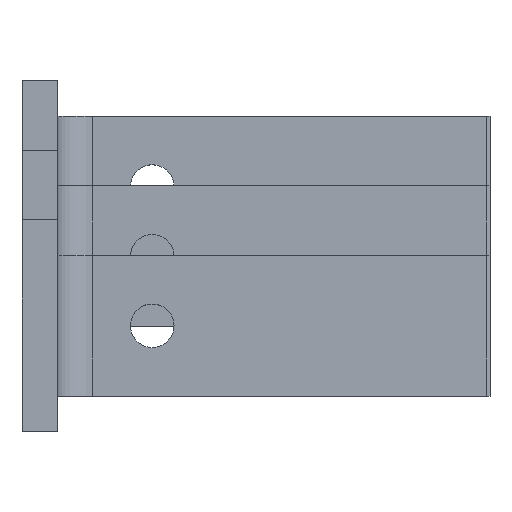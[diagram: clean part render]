
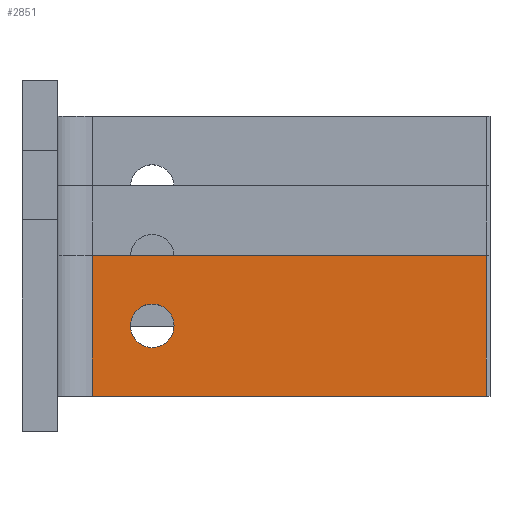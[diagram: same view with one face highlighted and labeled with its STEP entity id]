
A CAD part, top view. The second image highlights one B-rep face of the part: STEP entity #2851.
In plain terms, the highlighted planar face has unit normal (0, 0, 1).
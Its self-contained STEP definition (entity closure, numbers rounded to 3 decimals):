
#2086=CARTESIAN_POINT(' ',(-23.25,-10.,0.));
#2091=DIRECTION(' ',(0.,1.,0.));
#2096=VECTOR(' ',#2091,1.);
#2101=LINE('',#2086,#2096);
#2106=CARTESIAN_POINT(' ',(-23.25,-10.,0.));
#2107=VERTEX_POINT(' ',#2106);
#2111=CARTESIAN_POINT(' ',(-23.25,10.,0.));
#2112=VERTEX_POINT(' ',#2111);
#2116=EDGE_CURVE(' ',#2107,#2112,#2101,.T.);
#2621=DIRECTION(' ',(-0.,0.,1.));
#2626=CARTESIAN_POINT(' ',(-23.25,-10.,0.));
#2631=DIRECTION(' ',(1.,0.,0.));
#2636=AXIS2_PLACEMENT_3D(' ',#2626,#2621,#2631);
#2641=PLANE('NONE',#2636);
#2646=CARTESIAN_POINT(' ',(-23.25,-10.,0.));
#2651=DIRECTION(' ',(1.,0.,0.));
#2656=VECTOR(' ',#2651,1.);
#2661=LINE('',#2646,#2656);
#2666=CARTESIAN_POINT(' ',(32.75,-10.,0.));
#2667=VERTEX_POINT(' ',#2666);
#2671=EDGE_CURVE(' ',#2107,#2667,#2661,.T.);
#2676=ORIENTED_EDGE(' ',*,*,#2671,.T.);
#2681=CARTESIAN_POINT(' ',(32.75,-10.,0.));
#2686=DIRECTION(' ',(0.,1.,0.));
#2691=VECTOR(' ',#2686,1.);
#2696=LINE('',#2681,#2691);
#2701=CARTESIAN_POINT(' ',(32.75,10.,0.));
#2702=VERTEX_POINT(' ',#2701);
#2706=EDGE_CURVE(' ',#2667,#2702,#2696,.T.);
#2711=ORIENTED_EDGE(' ',*,*,#2706,.T.);
#2716=CARTESIAN_POINT(' ',(32.75,10.,0.));
#2721=DIRECTION(' ',(-1.,0.,0.));
#2726=VECTOR(' ',#2721,1.);
#2731=LINE('',#2716,#2726);
#2736=EDGE_CURVE(' ',#2702,#2112,#2731,.T.);
#2741=ORIENTED_EDGE(' ',*,*,#2736,.T.);
#2746=ORIENTED_EDGE(' ',*,*,#2116,.F.);
#2751=EDGE_LOOP(' ',(#2676,#2711,#2741,#2746));
#2756=FACE_OUTER_BOUND(' ',#2751,.T.);
#2761=CARTESIAN_POINT(' ',(-14.75,0.,0.));
#2766=DIRECTION(' ',(0.,0.,1.));
#2771=DIRECTION(' ',(1.,0.,0.));
#2776=AXIS2_PLACEMENT_3D(' ',#2761,#2766,#2771);
#2781=CIRCLE('',#2776,3.1);
#2786=CARTESIAN_POINT(' ',(-11.65,0.,0.));
#2787=VERTEX_POINT(' ',#2786);
#2791=CARTESIAN_POINT(' ',(-17.85,0.,0.));
#2792=VERTEX_POINT(' ',#2791);
#2796=EDGE_CURVE(' ',#2787,#2792,#2781,.T.);
#2801=ORIENTED_EDGE(' ',*,*,#2796,.F.);
#2806=CARTESIAN_POINT(' ',(-14.75,0.,0.));
#2811=DIRECTION(' ',(0.,-0.,1.));
#2816=DIRECTION(' ',(-1.,0.,0.));
#2821=AXIS2_PLACEMENT_3D(' ',#2806,#2811,#2816);
#2826=CIRCLE('',#2821,3.1);
#2831=EDGE_CURVE(' ',#2792,#2787,#2826,.T.);
#2836=ORIENTED_EDGE(' ',*,*,#2831,.F.);
#2841=EDGE_LOOP(' ',(#2801,#2836));
#2846=FACE_BOUND(' ',#2841,.T.);
#2851=ADVANCED_FACE('NONE',(#2756,#2846),#2641,.T.);
